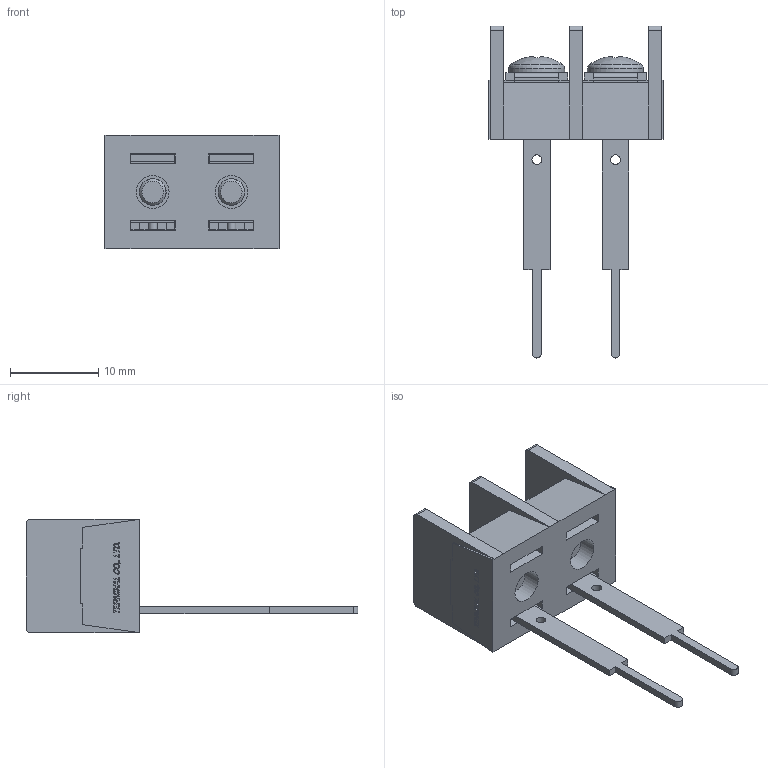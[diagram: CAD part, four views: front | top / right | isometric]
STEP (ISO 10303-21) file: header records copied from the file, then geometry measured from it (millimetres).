
FILE_DESCRIPTION(/* description */ ('Alibre Inc.'),/* implementation_level */ '2;1');
FILE_NAME(/* name */ 'export0',/* time_stamp */ '2015-10-20T19:57:48+09:00',/* author */ (''),/* organization */ (''),/* preprocessor_version */ 'ST-DEVELOPER v14',/* originating_system */ 'Alibre',/* authorisation */ '');
FILE_SCHEMA (('CONFIG_CONTROL_DESIGN'));
Length unit declared in the file: centimetre
Products named in the file (1): ID_1
Bounding box: 19.69 x 37.5 x 12.8 mm (x, y, z)
Volume: 1995.9 mm3; surface area: 2745.8 mm2
Topology: 1 solids, 33 shells, 962 faces, 2510 edges, 1664 vertices
Faces by surface type: plane 714, bspline 208, cylinder 24, cone 10, torus 4, sphere 2
Full cylindrical faces by diameter (mm): 1.1 x2, 3 x2, 3.7 x2, 4.6 x2, 6.3 x2
Entity records: 28281 total; most frequent: CARTESIAN_POINT 7019, ORIENTED_EDGE 4976, DIRECTION 2850, EDGE_CURVE 2488, VECTOR 1932, LINE 1932, VERTEX_POINT 1658, EDGE_LOOP 1060
